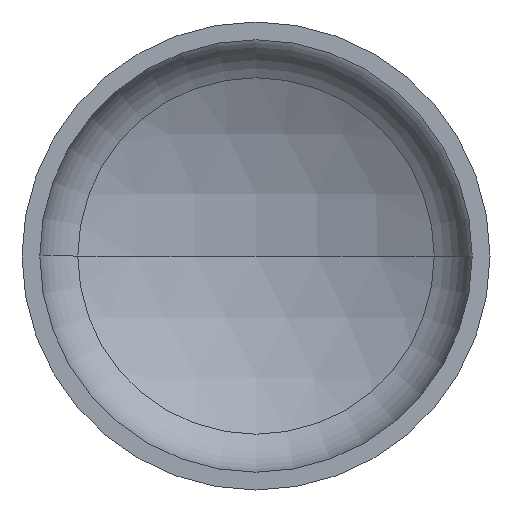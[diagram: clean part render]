
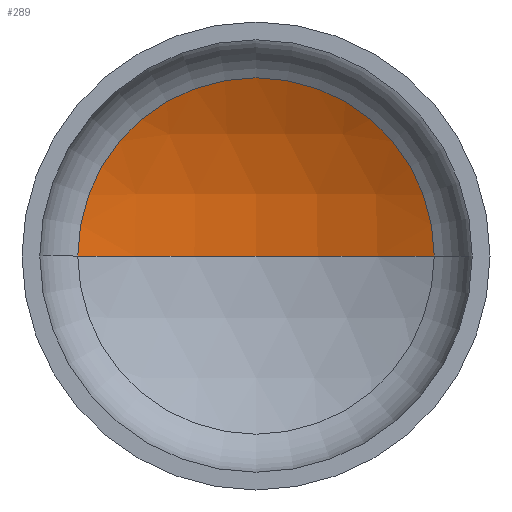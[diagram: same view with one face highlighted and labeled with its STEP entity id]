
A CAD part, front view. The second image highlights one B-rep face of the part: STEP entity #289.
In plain terms, the highlighted spherical face has radius 800 mm.
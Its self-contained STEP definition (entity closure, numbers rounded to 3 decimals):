
#18 = AXIS2_PLACEMENT_3D ( 'NONE', #64, #45, #210 ) ;
#24 = CIRCLE ( 'NONE', #25, 800. ) ;
#25 = AXIS2_PLACEMENT_3D ( 'NONE', #228, #223, #183 ) ;
#29 = AXIS2_PLACEMENT_3D ( 'NONE', #353, #129, #149 ) ;
#31 = AXIS2_PLACEMENT_3D ( 'NONE', #58, #382, #326 ) ;
#45 = DIRECTION ( 'NONE',  ( 0., 0., -1. ) ) ;
#58 = CARTESIAN_POINT ( 'NONE',  ( 0., 256.317, 0. ) ) ;
#62 = VERTEX_POINT ( 'NONE', #349 ) ;
#64 = CARTESIAN_POINT ( 'NONE',  ( 0., -447.253, 0. ) ) ;
#96 = CARTESIAN_POINT ( 'NONE',  ( -380.775, 256.317, 0. ) ) ;
#114 = FACE_OUTER_BOUND ( 'NONE', #404, .T. ) ;
#115 = EDGE_CURVE ( 'NONE', #226, #255, #287, .T. ) ;
#122 = EDGE_CURVE ( 'NONE', #62, #226, #368, .T. ) ;
#129 = DIRECTION ( 'NONE',  ( 0., 0., -1. ) ) ;
#140 = EDGE_CURVE ( 'NONE', #62, #255, #24, .T. ) ;
#149 = DIRECTION ( 'NONE',  ( -1., 0., 0. ) ) ;
#183 = DIRECTION ( 'NONE',  ( 1., 0., 0. ) ) ;
#202 = ORIENTED_EDGE ( 'NONE', *, *, #140, .F. ) ;
#210 = DIRECTION ( 'NONE',  ( -1., 0., 0. ) ) ;
#223 = DIRECTION ( 'NONE',  ( 0., 0., 1. ) ) ;
#226 = VERTEX_POINT ( 'NONE', #366 ) ;
#228 = CARTESIAN_POINT ( 'NONE',  ( 0., -447.253, 0. ) ) ;
#255 = VERTEX_POINT ( 'NONE', #96 ) ;
#287 = CIRCLE ( 'NONE', #31, 380.775 ) ;
#289 = ADVANCED_FACE ( 'NONE', ( #114 ), #400, .F. ) ;
#293 = ORIENTED_EDGE ( 'NONE', *, *, #115, .T. ) ;
#326 = DIRECTION ( 'NONE',  ( 1., 0., 0. ) ) ;
#349 = CARTESIAN_POINT ( 'NONE',  ( 0., 352.747, 0. ) ) ;
#353 = CARTESIAN_POINT ( 'NONE',  ( 0., -447.253, 0. ) ) ;
#366 = CARTESIAN_POINT ( 'NONE',  ( 380.775, 256.317, 0. ) ) ;
#368 = CIRCLE ( 'NONE', #29, 800. ) ;
#382 = DIRECTION ( 'NONE',  ( 0., -1., 0. ) ) ;
#400 = SPHERICAL_SURFACE ( 'NONE', #18, 800. ) ;
#404 = EDGE_LOOP ( 'NONE', ( #202, #410, #293 ) ) ;
#410 = ORIENTED_EDGE ( 'NONE', *, *, #122, .T. ) ;
